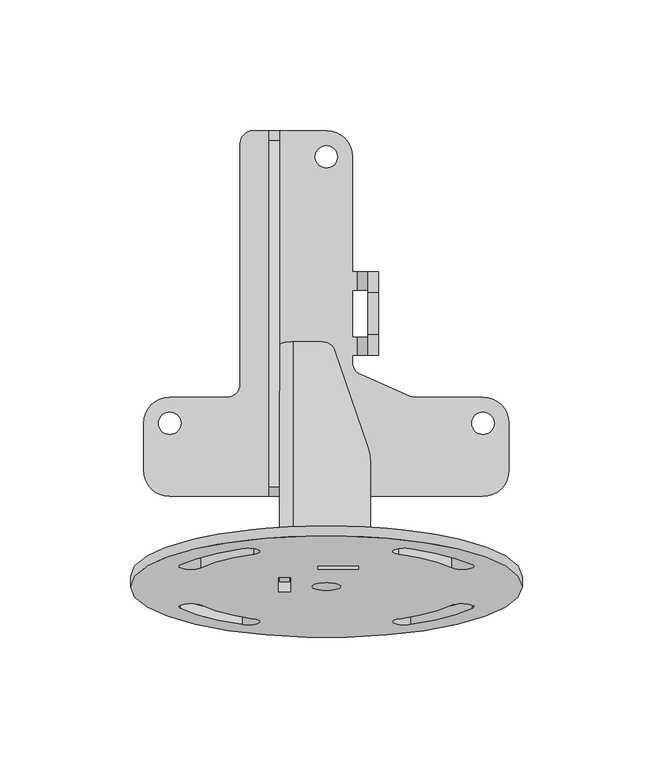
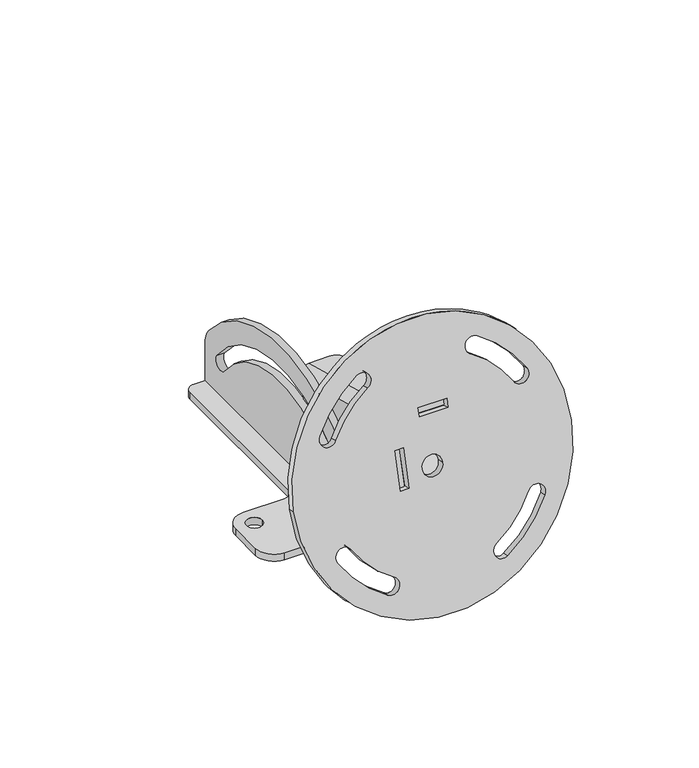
"""IFC4 building model written with IfcOpenShell, lengths in millimetres: proxy geometry, d&b U-Series U3 U5 Ceiling Mount : d&b U-Series U3 U5 Ceiling Mount."""

from ifc_helpers import new_model, si_unit, point, frame, frame_2d, origin, place, context, project, spatial, polyline, circle_curve, trimmed, segment, composite_curve, outline, extrude, source, transform, mapped, element, save
from ifc_brep_helpers import plane_surface, cylinder_surface, revolved_surface, advanced_brep


def communication_devices_39ca2ad1(model_context):
    return source(origin(), model_context, "Body", "SolidModel", [
        advanced_brep(
        [(17.0, -50.8947865, 81.5015204), (17.0, -15.3927171, 71.9887696), (15.973666, -9.2836658, 70.3518542), (3.1396204, 27.9065424, 60.3867679), (-1.6037961, 31.2089087, 59.5019015), (-12.5, 31.2089087, 59.5019015), (-12.5, -50.8947865, 81.5015204), (17.0, -51.9300627, 77.6378171), (-12.5, -51.9300627, 77.6378171), (-12.5, 30.1736325, 55.6381982), (-1.6037961, 30.1736325, 55.6381982), (3.1396204, 26.8712662, 56.5230646), (15.973666, -10.318942, 66.4881509), (17.0, -16.4279933, 68.1250662), (-14.0, 29.785404, 54.1893095), (-14.0, 21.6326041, 23.762646), (-18.0, 21.6326041, 23.762646), (-18.0, 29.785404, 54.1893095), (-18.0, -52.3182913, 76.1889283), (-18.0, -61.7651864, 40.9326357), (-14.0, -61.7651864, 40.9326357), (-14.0, -52.3182913, 76.1889283), (-14.0, 15.5088797, 20.2271121), (-14.0, 8.9336419, 46.3538911), (-14.0, 21.4906776, 42.9892435), (-14.0, -2.2956238, 29.2562159), (-14.0, 1.0690238, 41.8132517), (-18.0, 15.5088797, 20.2271121), (-18.0, 8.9336419, 46.3538911), (-18.0, 21.4906776, 42.9892435), (-18.0, -2.2956238, 29.2562159), (-18.0, 1.0690238, 41.8132517)],
        [
            (0, 1),
            (1, 2, circle_curve(frame((-3.0, -15.3927171, 71.9887696), z_axis=(0.0, 0.25881904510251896, 0.9659258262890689), x_axis=(-1.0000000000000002, 0.0, 0.0)), 20.0)),
            (2, 3),
            (3, 4, circle_curve(frame((-1.6037961, 26.3792796, 60.7959968), z_axis=(0.0, 0.25881904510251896, 0.9659258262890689), x_axis=(-1.0000000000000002, 0.0, 0.0)), 5.0)),
            (4, 5),
            (5, 6),
            (6, 0),
            (7, 8),
            (8, 9),
            (9, 10),
            (10, 11, circle_curve(frame((-1.6037961, 25.3440034, 56.9322935), z_axis=(0.0, -0.25881904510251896, -0.9659258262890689), x_axis=(-1.0000000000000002, 0.0, 0.0)), 5.0)),
            (11, 12),
            (12, 13, circle_curve(frame((-3.0, -16.4279933, 68.1250662), z_axis=(0.0, -0.25881904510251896, -0.9659258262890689), x_axis=(-1.0000000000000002, 0.0, 0.0)), 20.0)),
            (13, 7),
            (0, 7),
            (13, 1),
            (12, 2),
            (11, 3),
            (10, 4),
            (9, 14, circle_curve(frame((-12.5, 29.785404, 54.1893095), z_axis=(0.0, -0.9659258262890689, 0.25881904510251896), x_axis=(0.0, 0.25881904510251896, 0.9659258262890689)), 1.5)),
            (14, 15),
            (15, 16),
            (16, 17),
            (17, 5, circle_curve(frame((-12.5, 29.785404, 54.1893095), z_axis=(0.0, 0.9659258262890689, -0.25881904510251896), x_axis=(0.0, 0.25881904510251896, 0.9659258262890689)), 5.5)),
            (6, 18, circle_curve(frame((-12.5, -52.3182913, 76.1889283), z_axis=(0.0, -0.9659258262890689, 0.25881904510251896), x_axis=(0.0, 0.25881904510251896, 0.9659258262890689)), 5.5)),
            (18, 19),
            (19, 20),
            (20, 21),
            (21, 8, circle_curve(frame((-12.5, -52.3182913, 76.1889283), z_axis=(0.0, 0.9659258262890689, -0.25881904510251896), x_axis=(0.0, 0.25881904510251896, 0.9659258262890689)), 1.5)),
            (21, 14),
            (17, 18),
            (20, 22),
            (22, 15, circle_curve(frame((-14.0, 16.8029749, 25.0567412), z_axis=(1.0, 0.0, 0.0), x_axis=(0.0, 0.25881904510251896, 0.9659258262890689)), 5.0)),
            (23, 24, circle_curve(frame((-14.0, 15.2121597, 44.6715673), z_axis=(-1.0, 0.0, 0.0), x_axis=(0.0, 0.9659258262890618, -0.25881904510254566)), 6.5)),
            (24, 23, circle_curve(frame((-14.0, 15.2121597, 44.6715673), z_axis=(-1.0, 0.0, 0.0), x_axis=(0.0, 0.9659258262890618, -0.25881904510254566)), 6.5)),
            (25, 26, circle_curve(frame((-14.0, -0.6133, 35.5347338), z_axis=(-1.0, 0.0, 0.0), x_axis=(0.0, 0.25881904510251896, 0.9659258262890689)), 6.5)),
            (26, 25, circle_curve(frame((-14.0, -0.6133, 35.5347338), z_axis=(-1.0, 0.0, 0.0), x_axis=(0.0, 0.25881904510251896, 0.9659258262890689)), 6.5)),
            (16, 27, circle_curve(frame((-18.0, 16.8029749, 25.0567412), z_axis=(-1.0, 0.0, 0.0), x_axis=(0.0, 0.25881904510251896, 0.9659258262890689)), 5.0)),
            (27, 19),
            (28, 29, circle_curve(frame((-18.0, 15.2121597, 44.6715673), z_axis=(1.0, 0.0, 0.0), x_axis=(0.0, 0.9659258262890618, -0.25881904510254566)), 6.5)),
            (29, 28, circle_curve(frame((-18.0, 15.2121597, 44.6715673), z_axis=(1.0, 0.0, 0.0), x_axis=(0.0, 0.9659258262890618, -0.25881904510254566)), 6.5)),
            (30, 31, circle_curve(frame((-18.0, -0.6133, 35.5347338), z_axis=(1.0, 0.0, 0.0), x_axis=(0.0, 0.25881904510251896, 0.9659258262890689)), 6.5)),
            (31, 30, circle_curve(frame((-18.0, -0.6133, 35.5347338), z_axis=(1.0, 0.0, 0.0), x_axis=(0.0, 0.25881904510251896, 0.9659258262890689)), 6.5)),
            (27, 22),
            (23, 28),
            (29, 24),
            (25, 30),
            (31, 26),
        ],
        [
            plane_surface(frame((17.0, -15.3927171, 71.9887696), z_axis=(0.0, 0.25881904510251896, 0.9659258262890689), x_axis=(0.0, 0.9659258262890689, -0.25881904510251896))),
            plane_surface(frame((17.0, -16.4279933, 68.1250662), z_axis=(0.0, -0.25881904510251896, -0.9659258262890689), x_axis=(0.0, -0.9659258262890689, 0.25881904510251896))),
            plane_surface(frame((17.0, -50.8947865, 81.5015204), z_axis=(1.0000000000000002, 0.0, 0.0), x_axis=(0.0, -0.25881904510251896, -0.9659258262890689))),
            cylinder_surface(frame((-3.0, -16.4279933, 68.1250662), z_axis=(0.0, 0.25881904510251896, 0.9659258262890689), x_axis=(-1.0000000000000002, 0.0, 0.0)), 20.0),
            plane_surface(frame((15.973666, -9.2836658, 70.3518542), z_axis=(0.9486832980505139, 0.3054525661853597, -0.08184576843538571), x_axis=(0.0, -0.25881904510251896, -0.9659258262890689))),
            cylinder_surface(frame((-1.6037961, 25.3440034, 56.9322935), z_axis=(0.0, 0.25881904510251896, 0.9659258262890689), x_axis=(-1.0000000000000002, 0.0, 0.0)), 5.0),
            plane_surface(frame((-1.6037961, 31.2089087, 59.5019015), z_axis=(0.0, 0.9659258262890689, -0.25881904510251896), x_axis=(0.0, -0.25881904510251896, -0.9659258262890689))),
            plane_surface(frame((-12.5, -50.8947865, 81.5015204), z_axis=(0.0, -0.9659258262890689, 0.25881904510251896), x_axis=(0.0, -0.25881904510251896, -0.9659258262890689))),
            revolved_surface(polyline([(-12.5, 30.17363256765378, 55.638198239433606), (-12.5, -51.930062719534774, 77.63781708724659)]), (-12.5, 29.785404, 54.1893095), (0.0, 0.9659258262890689, -0.25881904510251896)),
            cylinder_surface(frame((-12.5, 29.785404, 54.1893095), z_axis=(0.0, -0.9659258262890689, 0.25881904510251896), x_axis=(0.0, 0.25881904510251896, 0.9659258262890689)), 5.5),
            plane_surface(frame((-14.0, 15.5088797, 20.2271121), z_axis=(1.0000000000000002, 0.0, 0.0), x_axis=(0.0, 0.9659258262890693, -0.25881904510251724))),
            plane_surface(frame((-18.0, 15.5088797, 20.2271121), z_axis=(-1.0000000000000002, 0.0, 0.0), x_axis=(0.0, -0.9659258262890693, 0.25881904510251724))),
            plane_surface(frame((-14.0, -61.7651864, 40.9326357), z_axis=(0.0, -0.25881904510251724, -0.9659258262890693), x_axis=(-1.0, 0.0, 0.0))),
            cylinder_surface(frame((-18.0, 16.8029749, 25.0567412), z_axis=(1.0000000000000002, 0.0, 0.0), x_axis=(0.0, 0.25881904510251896, 0.9659258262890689)), 5.0),
            revolved_surface(polyline([(-18.0, 21.4906775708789, 42.98924350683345), (-13.999999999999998, 21.4906775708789, 42.98924350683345)]), (-18.0, 15.2121597, 44.6715673), (-1.0000000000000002, 0.0, 0.0)),
            revolved_surface(polyline([(-18.0, 1.0690237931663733, 41.81325167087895), (-13.999999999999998, 1.0690237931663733, 41.81325167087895)]), (-18.0, -0.6133, 35.5347338), (-1.0000000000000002, 0.0, 0.0)),
        ],
        [
            (0, [[1, 2, 3, 4, 5, 6, 7]]),
            (1, [[8, 9, 10, 11, 12, 13, 14]]),
            (2, [[-1, 15, -14, 16]]),
            (3, [[-2, -16, -13, 17]]),
            (4, [[-3, -17, -12, 18]]),
            (5, [[-4, -18, -11, 19]]),
            (6, [[-5, -19, -10, 20, 21, 22, 23, 24]]),
            (7, [[-7, 25, 26, 27, 28, 29, -8, -15]]),
            (8, [[-29, 30, -20, -9]]),
            (9, [[-25, -6, -24, 31]]),
            (10, [[32, 33, -21, -30, -28], [34, 35], [36, 37]]),
            (11, [[-26, -31, -23, 38, 39], [40, 41], [42, 43]]),
            (12, [[-32, -27, -39, 44]]),
            (13, [[-33, -44, -38, -22]]),
            (14, [[-34, 45, -41, 46]]),
            (14, [[-35, -46, -40, -45]]),
            (15, [[-36, 47, -43, 48]]),
            (15, [[-37, -48, -42, -47]]),
        ],
    ),
        extrude(outline(composite_curve([segment(trimmed(circle_curve(frame_2d((0.0, -75.0)), 75.0), [point((0.0, -150.0))], [point((0.0, 0.0))], False, "CARTESIAN"), True, "CONTINUOUS"), segment(trimmed(circle_curve(frame_2d((0.0, -75.0)), 75.0), [point((0.0, 0.0))], [point((0.0, -150.0))], False, "CARTESIAN"), True, "CONTINUOUS")], self_intersect=False), holes=[composite_curve([segment(trimmed(circle_curve(frame_2d((-51.9615242, -45.0)), 4.5), [point((-55.8586386, -42.75))], [point((-48.0644099, -47.25))], True, "CARTESIAN"), True, "CONTINUOUS"), segment(trimmed(circle_curve(frame_2d((0.0, -75.0)), 55.5), [point((-48.0644099, -47.25))], [point((-27.75, -26.9355901))], False, "CARTESIAN"), True, "CONTINUOUS"), segment(trimmed(circle_curve(frame_2d((-30.0, -23.0384758)), 4.5), [point((-27.75, -26.9355901))], [point((-32.25, -19.1413615))], True, "CARTESIAN"), True, "CONTINUOUS"), segment(trimmed(circle_curve(frame_2d((0.0, -75.0)), 64.5), [point((-32.25, -19.1413615))], [point((-55.8586386, -42.75))], True, "CARTESIAN"), True, "CONTINUOUS")], self_intersect=False), composite_curve([segment(trimmed(circle_curve(frame_2d((0.0, -75.0)), 64.5), [point((-55.8586386, -107.25))], [point((-32.25, -130.8586385))], True, "CARTESIAN"), True, "CONTINUOUS"), segment(trimmed(circle_curve(frame_2d((-30.0, -126.9615242)), 4.5), [point((-32.25, -130.8586385))], [point((-27.75, -123.0644099))], True, "CARTESIAN"), True, "CONTINUOUS"), segment(trimmed(circle_curve(frame_2d((0.0, -75.0)), 55.5), [point((-27.75, -123.0644099))], [point((-48.0644099, -102.75))], False, "CARTESIAN"), True, "CONTINUOUS"), segment(trimmed(circle_curve(frame_2d((-51.9615242, -105.0)), 4.5), [point((-48.0644099, -102.75))], [point((-55.8586386, -107.25))], True, "CARTESIAN"), True, "CONTINUOUS")], self_intersect=False), composite_curve([segment(trimmed(circle_curve(frame_2d((0.0, -75.0)), 64.5), [point((55.8586386, -42.75))], [point((32.25, -19.1413615))], True, "CARTESIAN"), True, "CONTINUOUS"), segment(trimmed(circle_curve(frame_2d((30.0, -23.0384758)), 4.5), [point((32.25, -19.1413615))], [point((27.75, -26.9355901))], True, "CARTESIAN"), True, "CONTINUOUS"), segment(trimmed(circle_curve(frame_2d((0.0, -75.0)), 55.5), [point((27.75, -26.9355901))], [point((48.0644099, -47.25))], False, "CARTESIAN"), True, "CONTINUOUS"), segment(trimmed(circle_curve(frame_2d((51.9615242, -45.0)), 4.5), [point((48.0644099, -47.25))], [point((55.8586386, -42.75))], True, "CARTESIAN"), True, "CONTINUOUS")], self_intersect=False), composite_curve([segment(trimmed(circle_curve(frame_2d((51.9615242, -105.0)), 4.5), [point((55.8586386, -107.25))], [point((48.0644099, -102.75))], True, "CARTESIAN"), True, "CONTINUOUS"), segment(trimmed(circle_curve(frame_2d((0.0, -75.0)), 55.5), [point((48.0644099, -102.75))], [point((27.75, -123.0644099))], False, "CARTESIAN"), True, "CONTINUOUS"), segment(trimmed(circle_curve(frame_2d((30.0, -126.9615242)), 4.5), [point((27.75, -123.0644099))], [point((32.25, -130.8586385))], True, "CARTESIAN"), True, "CONTINUOUS"), segment(trimmed(circle_curve(frame_2d((0.0, -75.0)), 64.5), [point((32.25, -130.8586385))], [point((55.8586386, -107.25))], True, "CARTESIAN"), True, "CONTINUOUS")], self_intersect=False), composite_curve([segment(trimmed(circle_curve(frame_2d((0.0, -75.0)), 5.5), [point((0.0, -80.5))], [point((0.0, -69.5))], True, "CARTESIAN"), True, "CONTINUOUS"), segment(trimmed(circle_curve(frame_2d((0.0, -75.0)), 5.5), [point((0.0, -69.5))], [point((0.0, -80.5))], True, "CARTESIAN"), True, "CONTINUOUS")], self_intersect=False), polyline([(30.25, -71.75), (25.75, -71.75), (25.75, -87.25), (30.25, -87.25), (30.25, -71.75)]), polyline([(13.25, -56.75), (-7.25, -56.75), (-7.25, -61.25), (13.25, -61.25), (13.25, -56.75)])]), frame((-75.0, -58.6593579, 52.5237456), z_axis=(0.0, -0.9659258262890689, 0.25881904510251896), x_axis=(0.0, 0.25881904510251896, 0.9659258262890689)), (0.0, 0.0, 1.0), 4.0),
        extrude(outline(composite_curve([segment(trimmed(circle_curve(frame_2d((-12.0, 24.5421149)), 16.0), [point((-28.0, 24.5421149))], [point((-24.3428571, 34.7231697))], False, "CARTESIAN"), True, "CONTINUOUS"), segment(trimmed(circle_curve(frame_2d((42.0, -20.0)), 86.0), [point((-24.3428571, 34.7231697))], [point((108.3428571, 34.7231697))], False, "CARTESIAN"), True, "CONTINUOUS"), segment(trimmed(circle_curve(frame_2d((96.0, 24.5421149)), 16.0), [point((108.3428571, 34.7231697))], [point((112.0, 24.5421149))], False, "CARTESIAN"), True, "CONTINUOUS"), segment(polyline([(112.0, 24.5421149), (112.0, 4.0), (-28.0, 4.0), (-28.0, 24.5421149)]), True, "CONTINUOUS")], self_intersect=False), holes=[composite_curve([segment(trimmed(circle_curve(frame_2d((42.0, -20.0)), 65.85), [point((-10.2423175, 20.0869401))], [point((94.2423175, 20.0869401))], False, "CARTESIAN"), True, "CONTINUOUS"), segment(trimmed(circle_curve(frame_2d((97.5347338, 22.6133)), 4.15), [point((94.2423175, 20.0869401))], [point((100.8271502, 25.13966))], True, "CARTESIAN"), True, "CONTINUOUS"), segment(trimmed(circle_curve(frame_2d((42.0, -20.0)), 74.15), [point((100.8271502, 25.13966))], [point((-16.8271502, 25.13966))], True, "CARTESIAN"), True, "CONTINUOUS"), segment(trimmed(circle_curve(frame_2d((-13.5347338, 22.6133)), 4.15), [point((-16.8271502, 25.13966))], [point((-10.2423175, 20.0869401))], True, "CARTESIAN"), True, "CONTINUOUS")], self_intersect=False)]), frame((-22.0, 0.0, 0.0), z_axis=(1.0, 0.0, 0.0), x_axis=(0.0, 1.0, 0.0)), (0.0, 0.0, 1.0), 4.0),
        advanced_brep(
        [(-70.0, -18.0, 4.0), (-60.0, -28.0, 4.0), (60.0, -28.0, 4.0), (70.0, -18.0, 4.0), (70.0, 0.0, 4.0), (60.0, 10.0, 4.0), (34.0399362, 10.0, 4.0), (32.0463056, 10.4146497, 4.0), (13.0063694, 18.6928829, 4.0), (10.0, 23.2782331, 4.0), (10.0, 26.0, 4.0), (11.8, 26.0, 4.0), (11.8, 33.0, 4.0), (10.0, 33.0, 4.0), (10.0, 51.0, 4.0), (11.8, 51.0, 4.0), (11.8, 58.0, 4.0), (10.0, 58.0, 4.0), (10.0, 102.0, 4.0), (0.0, 112.0, 4.0), (-28.0, 112.0, 4.0), (-33.0, 107.0, 4.0), (-33.0, 15.0, 4.0), (-38.0, 10.0, 4.0), (-60.0, 10.0, 4.0), (-70.0, 0.0, 4.0), (-64.3, 0.0, 4.0), (-55.7, 0.0, 4.0), (55.7, 0.0, 4.0), (64.3, 0.0, 4.0), (-4.25, -18.0, 4.0), (4.25, -18.0, 4.0), (-4.25, 102.0, 4.0), (4.25, 102.0, 4.0), (-70.0, -18.0, 0.0), (-70.0, 0.0, 0.0), (-60.0, 10.0, 0.0), (-38.0, 10.0, 0.0), (-33.0, 15.0, 0.0), (-33.0, 107.0, 0.0), (-28.0, 112.0, 0.0), (0.0, 112.0, 0.0), (10.0, 102.0, 0.0), (10.0, 58.0, 0.0), (11.8, 58.0, 0.0), (11.8, 51.0, 0.0), (10.0, 51.0, 0.0), (10.0, 33.0, 0.0), (11.8, 33.0, 0.0), (11.8, 26.0, 0.0), (10.0, 26.0, 0.0), (10.0, 23.2782331, 0.0), (13.0063694, 18.6928829, 0.0), (32.0463056, 10.4146497, 0.0), (34.0399362, 10.0, 0.0), (60.0, 10.0, 0.0), (70.0, 0.0, 0.0), (70.0, -18.0, 0.0), (60.0, -28.0, 0.0), (-60.0, -28.0, 0.0), (-64.3, 0.0, 0.0), (-55.7, 0.0, 0.0), (55.7, 0.0, 0.0), (64.3, 0.0, 0.0), (-4.25, -18.0, 0.0), (4.25, -18.0, 0.0), (-4.25, 102.0, 0.0), (4.25, 102.0, 0.0), (16.0, 26.0, 8.2), (20.0, 26.0, 8.2), (20.0, 26.0, 16.0), (16.0, 26.0, 16.0), (20.0, 33.0, 13.0), (20.0, 33.0, 8.2), (16.0, 33.0, 8.2), (16.0, 33.0, 13.0), (16.0, 34.0, 24.0), (16.0, 50.0, 24.0), (16.0, 58.0, 16.0), (16.0, 58.0, 8.2), (16.0, 51.0, 8.2), (16.0, 51.0, 13.0), (16.0, 47.0, 17.0), (16.0, 37.0, 17.0), (20.0, 37.0, 17.0), (20.0, 47.0, 17.0), (20.0, 51.0, 13.0), (20.0, 51.0, 8.2), (20.0, 58.0, 8.2), (20.0, 58.0, 16.0), (20.0, 50.0, 24.0), (20.0, 34.0, 24.0)],
        [
            (0, 1, circle_curve(frame((-60.0, -18.0, 4.0), z_axis=(0.0, 0.0, 1.0), x_axis=(1.0, 0.0, 0.0)), 10.0)),
            (1, 2),
            (2, 3, circle_curve(frame((60.0, -18.0, 4.0), z_axis=(0.0, 0.0, 1.0), x_axis=(1.0, 0.0, 0.0)), 10.0)),
            (3, 4),
            (4, 5, circle_curve(frame((60.0, 0.0, 4.0), z_axis=(0.0, 0.0, 1.0), x_axis=(1.0, 0.0, 0.0)), 10.0)),
            (5, 6),
            (6, 7, circle_curve(frame((34.0399362, 15.0, 4.0), z_axis=(0.0, 0.0, -1.0), x_axis=(1.0, 0.0, 0.0)), 5.0)),
            (7, 8),
            (8, 9, circle_curve(frame((15.0, 23.2782331, 4.0), z_axis=(0.0, 0.0, -1.0), x_axis=(1.0, 0.0, 0.0)), 5.0)),
            (9, 10),
            (10, 11),
            (11, 12),
            (12, 13),
            (13, 14),
            (14, 15),
            (15, 16),
            (16, 17),
            (17, 18),
            (18, 19, circle_curve(frame((0.0, 102.0, 4.0), z_axis=(0.0, 0.0, 1.0), x_axis=(1.0, 0.0, 0.0)), 10.0)),
            (19, 20),
            (20, 21, circle_curve(frame((-28.0, 107.0, 4.0), z_axis=(0.0, 0.0, 1.0), x_axis=(1.0, 0.0, 0.0)), 5.0)),
            (21, 22),
            (22, 23, circle_curve(frame((-38.0, 15.0, 4.0), z_axis=(0.0, 0.0, -1.0), x_axis=(1.0, 0.0, 0.0)), 5.0)),
            (23, 24),
            (24, 25, circle_curve(frame((-60.0, 0.0, 4.0), z_axis=(0.0, 0.0, 1.0), x_axis=(1.0, 0.0, 0.0)), 10.0)),
            (25, 0),
            (26, 27, circle_curve(frame((-60.0, 0.0, 4.0), z_axis=(0.0, 0.0, -1.0), x_axis=(1.0, 0.0, 0.0)), 4.3)),
            (27, 26, circle_curve(frame((-60.0, 0.0, 4.0), z_axis=(0.0, 0.0, -1.0), x_axis=(1.0, 0.0, 0.0)), 4.3)),
            (28, 29, circle_curve(frame((60.0, 0.0, 4.0), z_axis=(0.0, 0.0, -1.0), x_axis=(1.0, 0.0, 0.0)), 4.3)),
            (29, 28, circle_curve(frame((60.0, 0.0, 4.0), z_axis=(0.0, 0.0, -1.0), x_axis=(1.0, 0.0, 0.0)), 4.3)),
            (30, 31, circle_curve(frame((0.0, -18.0, 4.0), z_axis=(0.0, 0.0, -1.0), x_axis=(1.0, 0.0, 0.0)), 4.25)),
            (31, 30, circle_curve(frame((0.0, -18.0, 4.0), z_axis=(0.0, 0.0, -1.0), x_axis=(1.0, 0.0, 0.0)), 4.25)),
            (32, 33, circle_curve(frame((0.0, 102.0, 4.0), z_axis=(0.0, 0.0, -1.0), x_axis=(1.0, 0.0, 0.0)), 4.25)),
            (33, 32, circle_curve(frame((0.0, 102.0, 4.0), z_axis=(0.0, 0.0, -1.0), x_axis=(1.0, 0.0, 0.0)), 4.25)),
            (34, 35),
            (35, 36, circle_curve(frame((-60.0, 0.0, 0.0), z_axis=(0.0, 0.0, -1.0), x_axis=(1.0, 0.0, 0.0)), 10.0)),
            (36, 37),
            (37, 38, circle_curve(frame((-38.0, 15.0, 0.0), z_axis=(0.0, 0.0, 1.0), x_axis=(1.0, 0.0, 0.0)), 5.0)),
            (38, 39),
            (39, 40, circle_curve(frame((-28.0, 107.0, 0.0), z_axis=(0.0, 0.0, -1.0), x_axis=(1.0, 0.0, 0.0)), 5.0)),
            (40, 41),
            (41, 42, circle_curve(frame((0.0, 102.0, 0.0), z_axis=(0.0, 0.0, -1.0), x_axis=(1.0, 0.0, 0.0)), 10.0)),
            (42, 43),
            (43, 44),
            (44, 45),
            (45, 46),
            (46, 47),
            (47, 48),
            (48, 49),
            (49, 50),
            (50, 51),
            (51, 52, circle_curve(frame((15.0, 23.2782331, 0.0), z_axis=(0.0, 0.0, 1.0), x_axis=(1.0, 0.0, 0.0)), 5.0)),
            (52, 53),
            (53, 54, circle_curve(frame((34.0399362, 15.0, 0.0), z_axis=(0.0, 0.0, 1.0), x_axis=(1.0, 0.0, 0.0)), 5.0)),
            (54, 55),
            (55, 56, circle_curve(frame((60.0, 0.0, 0.0), z_axis=(0.0, 0.0, -1.0), x_axis=(1.0, 0.0, 0.0)), 10.0)),
            (56, 57),
            (57, 58, circle_curve(frame((60.0, -18.0, 0.0), z_axis=(0.0, 0.0, -1.0), x_axis=(1.0, 0.0, 0.0)), 10.0)),
            (58, 59),
            (59, 34, circle_curve(frame((-60.0, -18.0, 0.0), z_axis=(0.0, 0.0, -1.0), x_axis=(1.0, 0.0, 0.0)), 10.0)),
            (60, 61, circle_curve(frame((-60.0, 0.0, 0.0), z_axis=(0.0, 0.0, 1.0), x_axis=(1.0, 0.0, 0.0)), 4.3)),
            (61, 60, circle_curve(frame((-60.0, 0.0, 0.0), z_axis=(0.0, 0.0, 1.0), x_axis=(1.0, 0.0, 0.0)), 4.3)),
            (62, 63, circle_curve(frame((60.0, 0.0, 0.0), z_axis=(0.0, 0.0, 1.0), x_axis=(1.0, 0.0, 0.0)), 4.3)),
            (63, 62, circle_curve(frame((60.0, 0.0, 0.0), z_axis=(0.0, 0.0, 1.0), x_axis=(1.0, 0.0, 0.0)), 4.3)),
            (64, 65, circle_curve(frame((0.0, -18.0, 0.0), z_axis=(0.0, 0.0, 1.0), x_axis=(1.0, 0.0, 0.0)), 4.25)),
            (65, 64, circle_curve(frame((0.0, -18.0, 0.0), z_axis=(0.0, 0.0, 1.0), x_axis=(1.0, 0.0, 0.0)), 4.25)),
            (66, 67, circle_curve(frame((0.0, 102.0, 0.0), z_axis=(0.0, 0.0, 1.0), x_axis=(1.0, 0.0, 0.0)), 4.25)),
            (67, 66, circle_curve(frame((0.0, 102.0, 0.0), z_axis=(0.0, 0.0, 1.0), x_axis=(1.0, 0.0, 0.0)), 4.25)),
            (25, 35),
            (34, 0),
            (24, 36),
            (23, 37),
            (22, 38),
            (21, 39),
            (20, 40),
            (19, 41),
            (18, 42),
            (17, 43),
            (13, 47),
            (46, 14),
            (9, 51),
            (50, 10),
            (8, 52),
            (7, 53),
            (6, 54),
            (5, 55),
            (4, 56),
            (3, 57),
            (2, 58),
            (1, 59),
            (27, 61),
            (60, 26),
            (29, 63),
            (62, 28),
            (31, 65),
            (64, 30),
            (33, 67),
            (66, 32),
            (68, 11, circle_curve(frame((11.8, 26.0, 8.2), z_axis=(0.0, 1.0, 0.0), x_axis=(1.0, 0.0, 0.0)), 4.2)),
            (49, 69, circle_curve(frame((11.8, 26.0, 8.2), z_axis=(0.0, -1.0, 0.0), x_axis=(1.0, 0.0, 0.0)), 8.2)),
            (69, 70),
            (70, 71),
            (71, 68),
            (72, 73),
            (73, 48, circle_curve(frame((11.8, 33.0, 8.2), z_axis=(0.0, 1.0, 0.0), x_axis=(1.0, 0.0, 0.0)), 8.2)),
            (12, 74, circle_curve(frame((11.8, 33.0, 8.2), z_axis=(0.0, -1.0, 0.0), x_axis=(1.0, 0.0, 0.0)), 4.2)),
            (74, 75),
            (75, 72),
            (71, 76, circle_curve(frame((16.0, 34.0, 16.0), z_axis=(-1.0, 0.0, 0.0), x_axis=(0.0, 0.0, -1.0)), 8.0)),
            (76, 77),
            (77, 78, circle_curve(frame((16.0, 50.0, 16.0), z_axis=(-1.0, 0.0, 0.0), x_axis=(0.0, 0.0, -1.0)), 8.0)),
            (78, 79),
            (79, 80),
            (80, 81),
            (81, 82, circle_curve(frame((16.0, 47.0, 13.0), z_axis=(1.0, 0.0, 0.0), x_axis=(0.0, 0.0, -1.0)), 4.0)),
            (82, 83),
            (83, 75, circle_curve(frame((16.0, 37.0, 13.0), z_axis=(1.0, 0.0, 0.0), x_axis=(0.0, 0.0, -1.0)), 4.0)),
            (74, 68),
            (73, 69),
            (72, 84, circle_curve(frame((20.0, 37.0, 13.0), z_axis=(-1.0, 0.0, 0.0), x_axis=(0.0, 0.0, -1.0)), 4.0)),
            (84, 85),
            (85, 86, circle_curve(frame((20.0, 47.0, 13.0), z_axis=(-1.0, 0.0, 0.0), x_axis=(0.0, 0.0, -1.0)), 4.0)),
            (86, 87),
            (87, 88),
            (88, 89),
            (89, 90, circle_curve(frame((20.0, 50.0, 16.0), z_axis=(1.0, 0.0, 0.0), x_axis=(0.0, 0.0, -1.0)), 8.0)),
            (90, 91),
            (91, 70, circle_curve(frame((20.0, 34.0, 16.0), z_axis=(1.0, 0.0, 0.0), x_axis=(0.0, 0.0, -1.0)), 8.0)),
            (86, 81),
            (80, 15, circle_curve(frame((11.8, 51.0, 8.2), z_axis=(0.0, 1.0, 0.0), x_axis=(1.0, 0.0, 0.0)), 4.2)),
            (45, 87, circle_curve(frame((11.8, 51.0, 8.2), z_axis=(0.0, -1.0, 0.0), x_axis=(1.0, 0.0, 0.0)), 8.2)),
            (88, 44, circle_curve(frame((11.8, 58.0, 8.2), z_axis=(0.0, 1.0, 0.0), x_axis=(1.0, 0.0, 0.0)), 8.2)),
            (16, 79, circle_curve(frame((11.8, 58.0, 8.2), z_axis=(0.0, -1.0, 0.0), x_axis=(1.0, 0.0, 0.0)), 4.2)),
            (78, 89),
            (90, 77),
            (76, 91),
            (83, 84),
            (82, 85),
        ],
        [
            plane_surface(frame((-70.0, 0.0, 4.0), z_axis=(0.0, 0.0, 1.0), x_axis=(0.0, -1.0, 0.0))),
            plane_surface(frame((-70.0, 0.0, 0.0), z_axis=(0.0, 0.0, -1.0), x_axis=(0.0, 1.0, 0.0))),
            plane_surface(frame((-70.0, -18.0, 0.0), z_axis=(-1.0, 0.0, 0.0), x_axis=(0.0, 0.0, 1.0))),
            cylinder_surface(frame((-60.0, 0.0, 4.0), z_axis=(0.0, 0.0, -1.0), x_axis=(1.0, 0.0, 0.0)), 10.0),
            plane_surface(frame((-60.0, 10.0, 0.0), z_axis=(0.0, 1.0, 0.0), x_axis=(0.0, 0.0, 1.0))),
            revolved_surface(polyline([(-33.0, 15.0, 4.0), (-33.0, 15.0, 0.0)]), (-38.0, 15.0, 4.0), (0.0, 0.0, 1.0)),
            plane_surface(frame((-33.0, 15.0, 0.0), z_axis=(-1.0, 0.0, 0.0), x_axis=(0.0, 0.0, 1.0))),
            cylinder_surface(frame((-28.0, 107.0, 4.0), z_axis=(0.0, 0.0, -1.0), x_axis=(1.0, 0.0, 0.0)), 5.0),
            plane_surface(frame((-28.0, 112.0, 0.0), z_axis=(0.0, 1.0, 0.0), x_axis=(0.0, 0.0, 1.0))),
            cylinder_surface(frame((0.0, 102.0, 4.0), z_axis=(0.0, 0.0, -1.0), x_axis=(1.0, 0.0, 0.0)), 10.0),
            plane_surface(frame((10.0, 102.0, 0.0), z_axis=(1.0, 0.0, 0.0), x_axis=(0.0, 0.0, 1.0))),
            revolved_surface(polyline([(20.0, 23.2782331, 4.0), (20.0, 23.2782331, 0.0)]), (15.0, 23.2782331, 4.0), (0.0, 0.0, 1.0)),
            plane_surface(frame((13.0063694, 18.6928829, 0.0), z_axis=(0.3987261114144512, 0.9170700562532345, 0.0), x_axis=(0.0, 0.0, 1.0))),
            revolved_surface(polyline([(39.0399362, 15.0, 4.0), (39.0399362, 15.0, 0.0)]), (34.0399362, 15.0, 4.0), (0.0, 0.0, 1.0)),
            plane_surface(frame((34.0399362, 10.0, 0.0), z_axis=(0.0, 1.0, 0.0), x_axis=(0.0, 0.0, 1.0))),
            cylinder_surface(frame((60.0, 0.0, 4.0), z_axis=(0.0, 0.0, -1.0), x_axis=(1.0, 0.0, 0.0)), 10.0),
            plane_surface(frame((70.0, 0.0, 0.0), z_axis=(1.0, 0.0, 0.0), x_axis=(0.0, 0.0, 1.0))),
            cylinder_surface(frame((60.0, -18.0, 4.0), z_axis=(0.0, 0.0, -1.0), x_axis=(1.0, 0.0, 0.0)), 10.0),
            plane_surface(frame((60.0, -28.0, 0.0), z_axis=(0.0, -1.0, 0.0), x_axis=(0.0, 0.0, 1.0))),
            cylinder_surface(frame((-60.0, -18.0, 4.0), z_axis=(0.0, 0.0, -1.0), x_axis=(1.0, 0.0, 0.0)), 10.0),
            revolved_surface(polyline([(-55.7, 0.0, 4.0), (-55.7, 0.0, 0.0)]), (-60.0, 0.0, 0.0), (0.0, 0.0, 1.0)),
            revolved_surface(polyline([(64.3, 0.0, 4.0), (64.3, 0.0, 0.0)]), (60.0, 0.0, 0.0), (0.0, 0.0, 1.0)),
            revolved_surface(polyline([(4.25, -18.0, 4.0), (4.25, -18.0, 0.0)]), (0.0, -18.0, 0.0), (0.0, 0.0, 1.0)),
            revolved_surface(polyline([(4.25, 102.0, 4.0), (4.25, 102.0, 0.0)]), (0.0, 102.0, 0.0), (0.0, 0.0, 1.0)),
            plane_surface(frame((16.0, 26.0, 13.0), z_axis=(0.0, -1.0, 0.0), x_axis=(-1.0, 0.0, 0.0))),
            plane_surface(frame((16.0, 33.0, 13.0), z_axis=(0.0, 1.0, 0.0), x_axis=(1.0, 0.0, 0.0))),
            plane_surface(frame((16.0, 26.0, 13.0), z_axis=(-1.0, 0.0, 0.0), x_axis=(0.0, 1.0, 0.0))),
            revolved_surface(polyline([(16.0, 33.0, 8.2), (16.0, 26.0, 8.2)]), (11.8, 33.0, 8.2), (0.0, 1.0, 0.0)),
            cylinder_surface(frame((11.8, 33.0, 8.2), z_axis=(0.0, -1.0, 0.0), x_axis=(1.0, 0.0, 0.0)), 8.2),
            plane_surface(frame((20.0, 26.0, 8.2), z_axis=(1.0, 0.0, 0.0), x_axis=(0.0, 1.0, 0.0))),
            plane_surface(frame((20.0, 51.0, 16.0), z_axis=(0.0, -1.0, 0.0), x_axis=(0.0, 0.0, 1.0))),
            plane_surface(frame((20.0, 58.0, 16.0), z_axis=(0.0, 1.0, 0.0), x_axis=(0.0, 0.0, -1.0))),
            revolved_surface(polyline([(16.0, 58.0, 8.2), (16.0, 51.0, 8.2)]), (11.8, 58.0, 8.2), (0.0, 1.0, 0.0)),
            cylinder_surface(frame((11.8, 58.0, 8.2), z_axis=(0.0, -1.0, 0.0), x_axis=(1.0, 0.0, 0.0)), 8.2),
            plane_surface(frame((20.0, 50.0, 24.0), z_axis=(0.0, 0.0, 1.0), x_axis=(-1.0, 0.0, 0.0))),
            cylinder_surface(frame((16.0, 34.0, 16.0), z_axis=(1.0, 0.0, 0.0), x_axis=(0.0, 0.0, -1.0)), 8.0),
            revolved_surface(polyline([(16.0, 37.0, 9.0), (20.0, 37.0, 9.0)]), (16.0, 37.0, 13.0), (-1.0, 0.0, 0.0)),
            plane_surface(frame((20.0, 37.0, 17.0), z_axis=(0.0, 0.0, -1.0), x_axis=(-1.0, 0.0, 0.0))),
            revolved_surface(polyline([(16.0, 47.0, 9.0), (20.0, 47.0, 9.0)]), (16.0, 47.0, 13.0), (-1.0, 0.0, 0.0)),
            cylinder_surface(frame((16.0, 50.0, 16.0), z_axis=(1.0, 0.0, 0.0), x_axis=(0.0, 0.0, -1.0)), 8.0),
        ],
        [
            (0, [[1, 2, 3, 4, 5, 6, 7, 8, 9, 10, 11, 12, 13, 14, 15, 16, 17, 18, 19, 20, 21, 22, 23, 24, 25, 26], [27, 28], [29, 30], [31, 32], [33, 34]]),
            (1, [[35, 36, 37, 38, 39, 40, 41, 42, 43, 44, 45, 46, 47, 48, 49, 50, 51, 52, 53, 54, 55, 56, 57, 58, 59, 60], [61, 62], [63, 64], [65, 66], [67, 68]]),
            (2, [[-26, 69, -35, 70]]),
            (3, [[-25, 71, -36, -69]]),
            (4, [[-24, 72, -37, -71]]),
            (5, [[-23, 73, -38, -72]]),
            (6, [[-22, 74, -39, -73]]),
            (7, [[-21, 75, -40, -74]]),
            (8, [[-20, 76, -41, -75]]),
            (9, [[-19, 77, -42, -76]]),
            (10, [[-77, -18, 78, -43]]),
            (10, [[79, -47, 80, -14]]),
            (10, [[81, -51, 82, -10]]),
            (11, [[-9, 83, -52, -81]]),
            (12, [[-8, 84, -53, -83]]),
            (13, [[-7, 85, -54, -84]]),
            (14, [[-6, 86, -55, -85]]),
            (15, [[-5, 87, -56, -86]]),
            (16, [[-4, 88, -57, -87]]),
            (17, [[-3, 89, -58, -88]]),
            (18, [[-2, 90, -59, -89]]),
            (19, [[-1, -70, -60, -90]]),
            (20, [[-28, 91, -61, 92]]),
            (20, [[-27, -92, -62, -91]]),
            (21, [[-30, 93, -63, 94]]),
            (21, [[-29, -94, -64, -93]]),
            (22, [[-32, 95, -65, 96]]),
            (22, [[-31, -96, -66, -95]]),
            (23, [[-34, 97, -67, 98]]),
            (23, [[-33, -98, -68, -97]]),
            (24, [[99, -11, -82, -50, 100, 101, 102, 103]]),
            (25, [[104, 105, -48, -79, -13, 106, 107, 108]]),
            (26, [[-103, 109, 110, 111, 112, 113, 114, 115, 116, 117, -107, 118]]),
            (27, [[-99, -118, -106, -12]]),
            (28, [[-100, -49, -105, 119]]),
            (29, [[-101, -119, -104, 120, 121, 122, 123, 124, 125, 126, 127, 128]]),
            (30, [[-123, 129, -114, 130, -15, -80, -46, 131]]),
            (31, [[-125, 132, -44, -78, -17, 133, -112, 134]]),
            (32, [[-130, -113, -133, -16]]),
            (33, [[-131, -45, -132, -124]]),
            (34, [[-127, 135, -110, 136]]),
            (35, [[-128, -136, -109, -102]]),
            (36, [[-120, -108, -117, 137]]),
            (37, [[-121, -137, -116, 138]]),
            (38, [[-122, -138, -115, -129]]),
            (39, [[-126, -134, -111, -135]]),
        ],
    ),
    ])


if __name__ == "__main__":
    model = new_model("IFC4")
    model_context = context("Model", 3, world=origin())
    ifc_project = project(units=[si_unit("LENGTHUNIT", "METRE", prefix="MILLI")], contexts=[model_context])
    site = spatial("IfcSite", under=ifc_project)
    building = spatial("IfcBuilding", under=site)
    placement = place(None, origin())
    communication_devices_shape = communication_devices_39ca2ad1(model_context)
    element("IfcBuildingElementProxy", 1, Name="d&b U-Series U3 U5 Ceiling Mount : d&b U-Series U3 U5 Ceiling Mount", ObjectType="d&b U-Series U3 U5 Ceiling Mount : d&b U-Series U3 U5 Ceiling Mount", at=placement, inside=building, context=model_context, shape_type="MappedRepresentation", body=[
        mapped(communication_devices_shape, transform((0.0, 0.0, 0.0), x_axis=(1.0, 0.0, 0.0), y_axis=(0.0, 1.0, 0.0), z_axis=(0.0, 0.0, 1.0))),
    ])
    save(model, "model.ifc")
